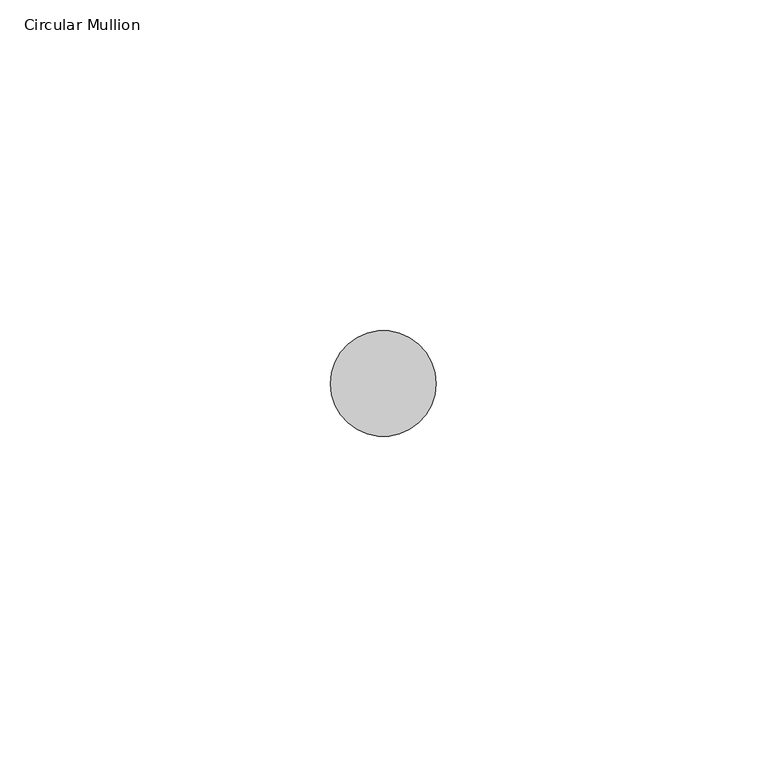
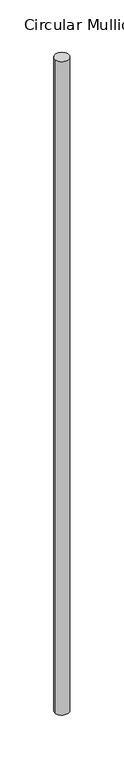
"""IFC4 building model written with IfcOpenShell, lengths in millimetres: member geometry, Circular Mullion : ARQ_HERR_16mm."""

from ifc_helpers import new_model, si_unit, point, frame, origin, origin_2d, place, context, project, spatial, circle_curve, trimmed, segment, composite_curve, outline, extrude, source, transform, mapped, element, save


def circular_mullion_967670e0(model_context):
    return source(origin(), model_context, "Body", "SweptSolid", [
        extrude(outline(composite_curve([segment(trimmed(circle_curve(origin_2d(), 8.0), [point((8.0, 0.0))], [point((-8.0, 0.0))], False, "CARTESIAN"), True, "CONTINUOUS"), segment(trimmed(circle_curve(origin_2d(), 8.0), [point((-8.0, 0.0))], [point((8.0, 0.0))], False, "CARTESIAN"), True, "CONTINUOUS")], self_intersect=False)), frame((0.0, 0.0, -787.0595443), z_axis=(0.0, 0.0, 1.0), x_axis=(1.0, 0.0, 0.0)), (0.0, 0.0, 1.0), 787.0595443),
    ])


if __name__ == "__main__":
    model = new_model("IFC4")
    model_context = context("Model", 3, world=origin())
    ifc_project = project(units=[si_unit("LENGTHUNIT", "METRE", prefix="MILLI")], contexts=[model_context])
    site = spatial("IfcSite", under=ifc_project)
    building = spatial("IfcBuilding", under=site)
    placement = place(None, origin())
    circular_mullion_shape = circular_mullion_967670e0(model_context)
    element("IfcMember", 1, ObjectType="Circular Mullion : ARQ_HERR_16mm", at=placement, inside=building, context=model_context, shape_type="MappedRepresentation", body=[
        mapped(circular_mullion_shape, transform((0.0, 0.0, 0.0), x_axis=(1.0, 0.0, 0.0), y_axis=(0.0, 1.0, 0.0), z_axis=(0.0, 0.0, 1.0))),
    ])
    save(model, "model.ifc")
